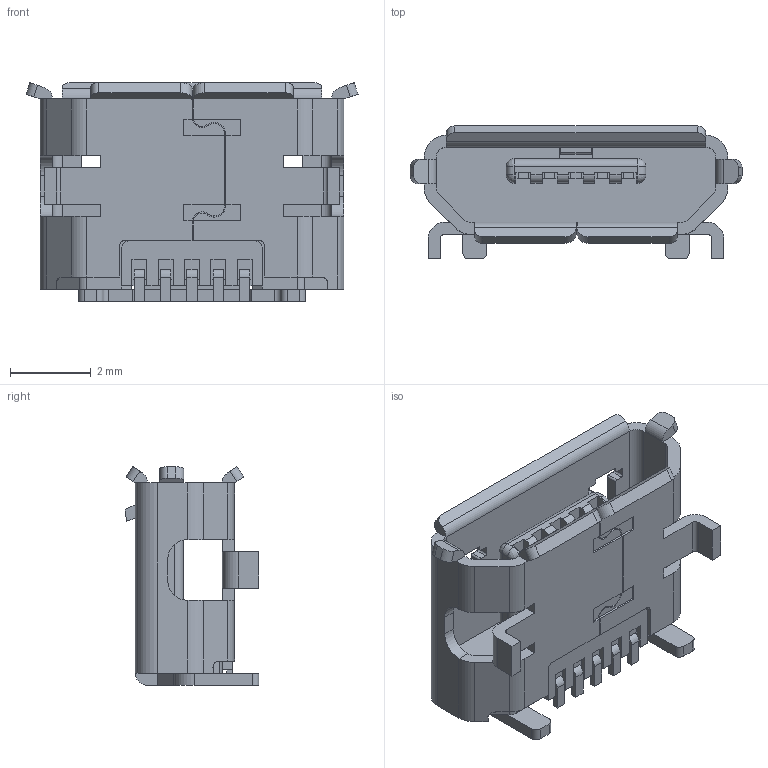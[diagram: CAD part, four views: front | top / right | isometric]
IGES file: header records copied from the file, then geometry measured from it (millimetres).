
Start section:  PTC IGES file: 1050170001.igs
Global section: file name: 1050170001.igs; native system: Creo Parametric by Parametric Technology Corporation; preprocessor: 2011490; author: me; organization: Unknown; date: 20140606.154427; units: millimetre
Bounding box: 8.2 x 3.3 x 5.4 mm (x, y, z)
Volume: 43.1 mm3; surface area: 259.4 mm2
Topology: 1 solids, 1 shells, 428 faces, 1376 edges, 924 vertices
Faces by surface type: bspline 298, revolution 130
